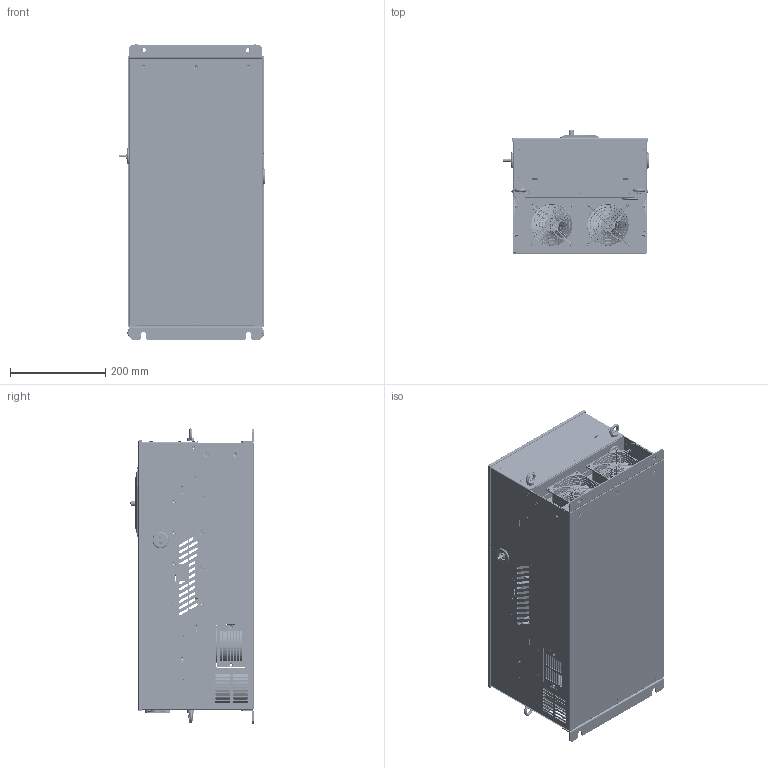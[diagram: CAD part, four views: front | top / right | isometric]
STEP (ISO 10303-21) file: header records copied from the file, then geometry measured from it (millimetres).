
FILE_DESCRIPTION (( 'STEP AP214' ), '1' );
FILE_NAME ('00-KC200-55KW-75KW ÍâÐÎ³ß´çÍ¼.STEP', '2024-05-29T03:27:52', ( '' ), ( '' ), 'SwSTEP 2.0', 'SolidWorks 2020', '' );
FILE_SCHEMA (( 'AUTOMOTIVE_DESIGN' ));
Length unit declared in the file: millimetre
Products named in the file (1): 00-KC200-55KW-75KW  俋倛喜渡芞
Bounding box: 305.1 x 258.4 x 619 mm (x, y, z)
Surface area: 2755376.1 mm2 (no closed solid volume)
Topology: 0 solids, 282 shells, 2589 faces, 12896 edges, 10189 vertices
Faces by surface type: cylinder 1099, plane 1019, bspline 280, cone 189, torus 2
Entity records: 173157 total; most frequent: CARTESIAN_POINT 44431, DIRECTION 20027, ORIENTED_EDGE 18196, EDGE_CURVE 12870, VERTEX_POINT 10189, VECTOR 7363, LINE 7363, AXIS2_PLACEMENT_3D 6332
